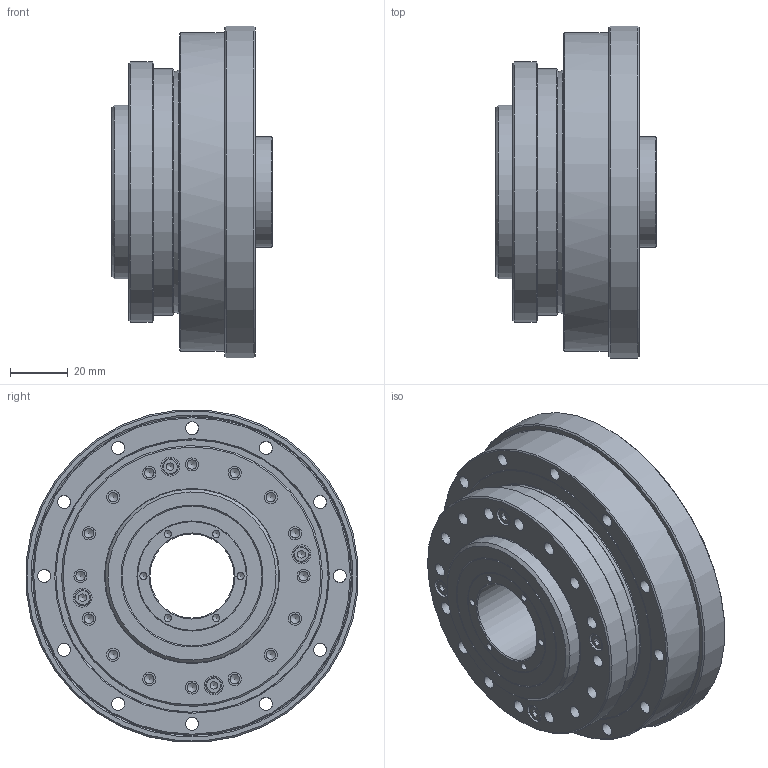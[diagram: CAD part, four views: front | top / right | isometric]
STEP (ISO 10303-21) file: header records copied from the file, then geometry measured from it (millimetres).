
FILE_DESCRIPTION(/* description */ (''),/* implementation_level */ '2;1');
FILE_NAME(/* name */ '\\Hiwin.tw\dfs\TB00F\研發課二組\\X2\6A5F5BC67D1A\X0\\1.設計\01-DT\DT-圖面\2.\X2\7D4454085716\X0\\模型\DGH-AH\DGH-25-AH\DGH-25-XX-AH_v2.stp',/* time_stamp */ '2024-09-26T16:05:02+08:00',/* author */ ('chiayu.chen'),/* organization */ (''),/* preprocessor_version */ 'ST-DEVELOPER v15.2',/* originating_system */ 'Autodesk Inventor 2014',/* authorisation */ '');
FILE_SCHEMA (('AUTOMOTIVE_DESIGN { 1 0 10303 214 3 1 1 }'));
Length unit declared in the file: centimetre
Products named in the file (1): WTI-S-25-XX-AH
Bounding box: 55.5 x 114.56 x 114.56 mm (x, y, z)
Volume: 336138.8 mm3; surface area: 54640.2 mm2
Topology: 1 solids, 17 shells, 402 faces, 898 edges, 594 vertices
Faces by surface type: plane 146, cylinder 134, cone 105, torus 13, bspline 4
Full cylindrical faces by diameter (mm): 2.459 x20, 3 x8, 3.242 x16, 3.4 x8, 3.5 x8, 4.5 x44, 5.5 x4, 5.7 x4, 6.5 x8, 29 x2, 29.5 x1, 38 x2, 48.2 x2, 60 x1, 84 x1, 85 x1, 90 x1, 94 x1, 110 x1, 115 x1
Entity records: 9037 total; most frequent: DIRECTION 1610, CARTESIAN_POINT 1571, ORIENTED_EDGE 1012, EDGE_LOOP 760, AXIS2_PLACEMENT_3D 757, EDGE_CURVE 506, VERTEX_POINT 454, FACE_BOUND 425
